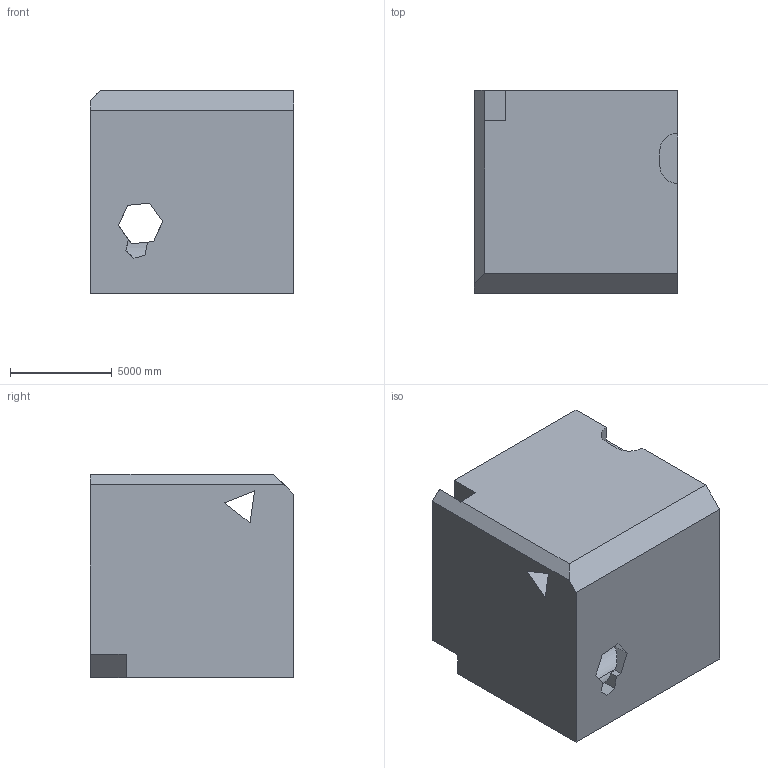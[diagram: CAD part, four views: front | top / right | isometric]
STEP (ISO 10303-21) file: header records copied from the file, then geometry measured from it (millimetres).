
FILE_DESCRIPTION (( 'STEP AP203' ), '1' );
FILE_NAME ('95.STEP', '2022-08-30T14:34:47', ( 'user' ), ( '' ), 'SwSTEP 2.0', 'SolidWorks 2021', '' );
FILE_SCHEMA (( 'CONFIG_CONTROL_DESIGN' ));
Length unit declared in the file: centimetre
Products named in the file (1): 95
Bounding box: 10000 x 10000 x 10000 mm (x, y, z)
Volume: 907837495439.2 mm3; surface area: 768498722.1 mm2
Topology: 1 solids, 1 shells, 44 faces, 126 edges, 84 vertices
Faces by surface type: plane 40, cylinder 4
Entity records: 1507 total; most frequent: CARTESIAN_POINT 297, ORIENTED_EDGE 252, DIRECTION 210, EDGE_CURVE 126, VECTOR 104, LINE 104, VERTEX_POINT 84, AXIS2_PLACEMENT_3D 53
